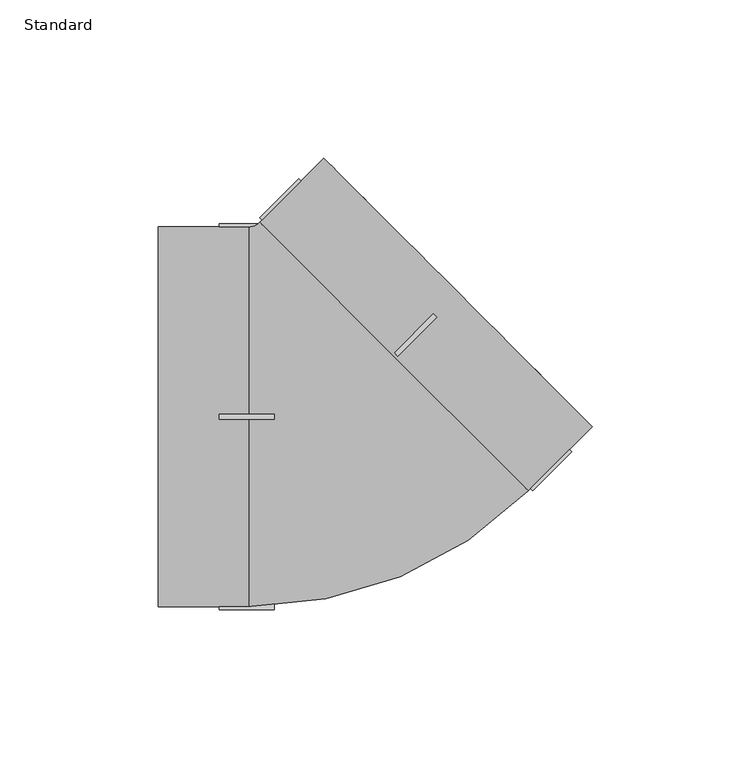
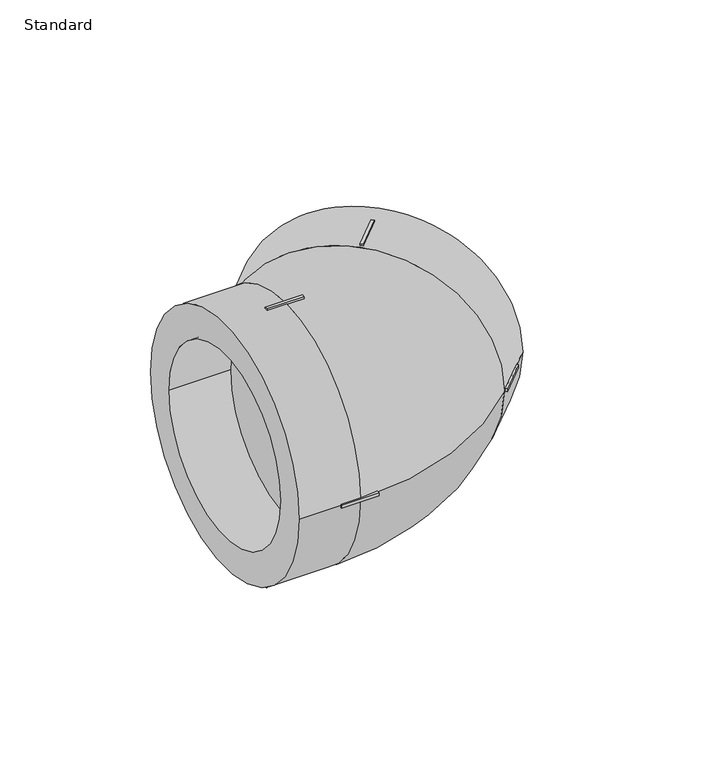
"""IFC4 building model written with IfcOpenShell, lengths in millimetres: pipe fitting geometry, EGB_VASEN_ PPR_Codo 90 WXR200_Codo 45 WXR220  : Standard."""

from ifc_helpers import new_model, si_unit, point, frame, origin, place, context, project, spatial, polyline, circle_curve, ellipse_curve, trimmed, outline, extrude, source, transform, mapped, element, save
from ifc_brep_helpers import plane_surface, cylinder_surface, revolved_surface, advanced_brep


def standard_c53607fb(model_context):
    return source(origin(), model_context, "Body", "SolidModel", [
        advanced_brep(
        [(-55.5, -60.0, 0.0), (-55.5, 60.0, 0.0), (-55.5, -45.0, 0.0), (-55.5, 45.0, 0.0), (-26.8528137, -60.0, 0.0), (-26.8528137, 60.0, 0.0), (-26.8528137, -45.0, 0.0), (-26.8528137, 45.0, 0.0), (50.8076118, -12.8319985, 0.0), (-12.8319985, 50.8076118, 0.0), (-23.4386002, 61.4142136, 0.0), (61.4142136, -23.4386002, 0.0), (18.9878067, 18.9878067, 60.0), (18.9878067, 18.9878067, -60.0), (81.6708332, -3.1819805, 0.0), (-3.1819805, 81.6708332, 0.0), (71.0642315, 7.4246212, 0.0), (7.4246212, 71.0642315, 0.0)],
        [
            (0, 1, circle_curve(frame((-55.5, 0.0, 0.0), z_axis=(-1.0, 0.0, 0.0), x_axis=(0.0, 1.0, 0.0)), 60.0)),
            (1, 0, circle_curve(frame((-55.5, 0.0, 0.0), z_axis=(-1.0, 0.0, 0.0), x_axis=(0.0, 1.0, 0.0)), 60.0)),
            (2, 3, circle_curve(frame((-55.5, 0.0, 0.0), z_axis=(1.0, 0.0, 0.0), x_axis=(0.0, 1.0, 0.0)), 45.0)),
            (3, 2, circle_curve(frame((-55.5, 0.0, 0.0), z_axis=(1.0, 0.0, 0.0), x_axis=(0.0, 1.0, 0.0)), 45.0)),
            (0, 4),
            (4, 5, circle_curve(frame((-26.8528137, 0.0, 0.0), z_axis=(-1.0, 0.0, 0.0), x_axis=(0.0, 1.0, 0.0)), 60.0)),
            (5, 1),
            (5, 4, circle_curve(frame((-26.8528137, 0.0, 0.0), z_axis=(-1.0, 0.0, 0.0), x_axis=(0.0, 1.0, 0.0)), 60.0)),
            (2, 6),
            (6, 7, circle_curve(frame((-26.8528137, 0.0, 0.0), z_axis=(1.0, 0.0, 0.0), x_axis=(0.0, 1.0, 0.0)), 45.0)),
            (7, 3),
            (7, 6, circle_curve(frame((-26.8528137, 0.0, 0.0), z_axis=(1.0, 0.0, 0.0), x_axis=(0.0, 1.0, 0.0)), 45.0)),
            (8, 9, circle_curve(frame((18.9878067, 18.9878067, 0.0), z_axis=(0.707106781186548, 0.7071067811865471, 0.0), x_axis=(-0.7071067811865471, 0.707106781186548, 0.0)), 45.0)),
            (9, 8, circle_curve(frame((18.9878067, 18.9878067, 0.0), z_axis=(0.707106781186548, 0.7071067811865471, 0.0), x_axis=(-0.7071067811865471, 0.707106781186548, 0.0)), 45.0)),
            (10, 5, circle_curve(frame((-26.8528137, 64.8284271, 0.0), z_axis=(0.0, 0.0, -1.0), x_axis=(0.0, -1.0, 0.0)), 4.8284271)),
            (4, 11, circle_curve(frame((-26.8528137, 64.8284271, 0.0), z_axis=(0.0, 0.0, 1.0), x_axis=(0.0, -1.0, 0.0)), 124.8284271)),
            (11, 12, circle_curve(frame((18.9878067, 18.9878067, 0.0), z_axis=(-0.7071067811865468, -0.7071067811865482, 0.0), x_axis=(-0.7071067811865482, 0.7071067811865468, 0.0)), 60.0)),
            (12, 10, circle_curve(frame((18.9878067, 18.9878067, 0.0), z_axis=(-0.7071067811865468, -0.7071067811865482, 0.0), x_axis=(-0.7071067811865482, 0.7071067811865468, 0.0)), 60.0)),
            (10, 13, circle_curve(frame((18.9878067, 18.9878067, 0.0), z_axis=(-0.7071067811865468, -0.7071067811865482, 0.0), x_axis=(-0.7071067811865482, 0.7071067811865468, 0.0)), 60.0)),
            (13, 11, circle_curve(frame((18.9878067, 18.9878067, 0.0), z_axis=(-0.7071067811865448, -0.7071067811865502, 0.0), x_axis=(-0.7071067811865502, 0.7071067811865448, 0.0)), 60.0)),
            (14, 15, circle_curve(frame((39.2444264, 39.2444264, 0.0), z_axis=(0.707106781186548, 0.7071067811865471, 0.0), x_axis=(-0.7071067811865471, 0.707106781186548, 0.0)), 60.0)),
            (15, 14, circle_curve(frame((39.2444264, 39.2444264, 0.0), z_axis=(0.707106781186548, 0.7071067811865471, 0.0), x_axis=(-0.7071067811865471, 0.707106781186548, 0.0)), 60.0)),
            (16, 17, circle_curve(frame((39.2444264, 39.2444264, 0.0), z_axis=(-0.707106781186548, -0.7071067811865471, 0.0), x_axis=(-0.7071067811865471, 0.707106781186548, 0.0)), 45.0)),
            (17, 16, circle_curve(frame((39.2444264, 39.2444264, 0.0), z_axis=(-0.707106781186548, -0.7071067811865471, 0.0), x_axis=(-0.7071067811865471, 0.707106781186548, 0.0)), 45.0)),
            (15, 10),
            (11, 14),
            (17, 9),
            (8, 16),
        ],
        [
            plane_surface(frame((-55.5, 0.0, 0.0), z_axis=(-1.0, 0.0, 0.0), x_axis=(0.0, 0.0, 1.0))),
            cylinder_surface(frame((-55.5, 0.0, 0.0), z_axis=(-1.0, 0.0, 0.0), x_axis=(0.0, 1.0, 0.0)), 60.0),
            revolved_surface(polyline([(-26.8528137, 45.0, 0.0), (-55.5, 45.0, 0.0)]), (-55.5, 0.0, 0.0), (1.0, 0.0, 0.0)),
            plane_surface(frame((-26.8528137, 0.0, 0.0), z_axis=(-1.0, 0.0, 0.0), x_axis=(0.0, 0.0, 1.0))),
            plane_surface(frame((18.9878067, 18.9878067, 0.0), z_axis=(0.7071067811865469, 0.7071067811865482, 0.0), x_axis=(0.0, 0.0, 1.0))),
            revolved_surface(trimmed(ellipse_curve(frame((-26.8528137, 0.0, 0.0), z_axis=(-1.0, 0.0, 0.0), x_axis=(0.0, 1.0, 0.0)), 60.0, 60.0), [point((-26.8528137, -60.0, 0.0))], [point((-26.8528137, 60.0, 0.0))], True, "CARTESIAN"), (-26.8528137, 64.8284271, 0.0), (0.0, 0.0, 1.0)),
            revolved_surface(trimmed(ellipse_curve(frame((-26.8528137, 0.0, 0.0), z_axis=(-1.0, 0.0, 0.0), x_axis=(0.0, 1.0, 0.0)), 60.0, 60.0), [point((-26.8528137, 60.0, 0.0))], [point((-26.8528137, -60.0, 0.0))], True, "CARTESIAN"), (-26.8528137, 64.8284271, 0.0), (0.0, 0.0, 1.0)),
            plane_surface(frame((39.2444264, 39.2444264, 0.0), z_axis=(0.707106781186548, 0.7071067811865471, 0.0), x_axis=(0.0, 0.0, 1.0))),
            cylinder_surface(frame((18.9878067, 18.9878067, 0.0), z_axis=(-0.707106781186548, -0.7071067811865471, 0.0), x_axis=(-0.7071067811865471, 0.707106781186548, 0.0)), 60.0),
            revolved_surface(polyline([(7.424621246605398, 71.06423155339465, 0.0), (-12.831998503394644, 50.80761180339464, 0.0)]), (18.9878067, 18.9878067, 0.0), (0.707106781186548, 0.7071067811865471, 0.0)),
        ],
        [
            (0, [[1, 2], [3, 4]]),
            (1, [[-1, 5, 6, 7]]),
            (1, [[-2, -7, 8, -5]]),
            (2, [[-3, 9, 10, 11]]),
            (2, [[-4, -11, 12, -9]]),
            (3, [[-10, -12]]),
            (4, [[13, 14]]),
            (5, [[15, -6, 16, 17, 18]]),
            (6, [[-15, 19, 20, -16, -8]]),
            (7, [[21, 22], [23, 24]]),
            (8, [[-22, 25, -18, -17, 26]]),
            (8, [[-21, -26, -20, -19, -25]]),
            (9, [[-24, 27, -13, 28]]),
            (9, [[-23, -28, -14, -27]]),
        ],
    ),
        extrude(outline(polyline([(20.2252436, 19.1645834), (19.1645834, 20.2252436), (31.4682414, 32.5289016), (32.5289016, 31.4682414), (20.2252436, 19.1645834)])), frame((0.0, 0.0, 59.0), z_axis=(0.0, 0.0, 1.0), x_axis=(1.0, 0.0, 0.0)), (0.0, 0.0, 1.0), 2.0),
        extrude(outline(polyline([(-22.0243866, 61.4142136), (-23.4386002, 62.8284271), (-11.1349422, 75.1320851), (-9.7207286, 73.7178716), (-22.0243866, 61.4142136)])), frame((0.0, 0.0, -0.75), z_axis=(0.0, 0.0, 1.0), x_axis=(1.0, 0.0, 0.0)), (0.0, 0.0, 1.0), 1.5),
        extrude(outline(polyline([(62.8284271, -23.4386002), (61.4142136, -22.0243866), (73.7178716, -9.7207286), (75.1320851, -11.1349422), (62.8284271, -23.4386002)])), frame((0.0, 0.0, -0.75), z_axis=(0.0, 0.0, 1.0), x_axis=(1.0, 0.0, 0.0)), (0.0, 0.0, 1.0), 1.5),
        extrude(outline(polyline([(20.2252436, 19.1645834), (19.1645834, 20.2252436), (31.4682414, 32.5289016), (32.5289016, 31.4682414), (20.2252436, 19.1645834)])), frame((0.0, 0.0, -61.0), z_axis=(0.0, 0.0, 1.0), x_axis=(1.0, 0.0, 0.0)), (0.0, 0.0, 1.0), 2.0),
        extrude(outline(polyline([(-18.8528137, 0.75), (-18.8528137, -0.75), (-36.2528137, -0.75), (-36.2528137, 0.75), (-18.8528137, 0.75)])), frame((0.0, 0.0, 59.0), z_axis=(0.0, 0.0, 1.0), x_axis=(1.0, 0.0, 0.0)), (0.0, 0.0, 1.0), 2.0),
        extrude(outline(polyline([(-18.8528137, 0.75), (-18.8528137, -0.75), (-36.2528137, -0.75), (-36.2528137, 0.75), (-18.8528137, 0.75)])), frame((0.0, 0.0, -61.0), z_axis=(0.0, 0.0, 1.0), x_axis=(1.0, 0.0, 0.0)), (0.0, 0.0, 1.0), 2.0),
        extrude(outline(polyline([(-18.8528137, 61.0), (-18.8528137, 59.0), (-36.2528137, 59.0), (-36.2528137, 61.0), (-18.8528137, 61.0)])), frame((0.0, 0.0, -0.75), z_axis=(0.0, 0.0, 1.0), x_axis=(1.0, 0.0, 0.0)), (0.0, 0.0, 1.0), 1.5),
        extrude(outline(polyline([(-18.8528137, -59.0), (-18.8528137, -61.0), (-36.2528137, -61.0), (-36.2528137, -59.0), (-18.8528137, -59.0)])), frame((0.0, 0.0, -0.75), z_axis=(0.0, 0.0, 1.0), x_axis=(1.0, 0.0, 0.0)), (0.0, 0.0, 1.0), 1.5),
    ])


if __name__ == "__main__":
    model = new_model("IFC4")
    model_context = context("Model", 3, world=origin())
    ifc_project = project(units=[si_unit("LENGTHUNIT", "METRE", prefix="MILLI")], contexts=[model_context])
    site = spatial("IfcSite", under=ifc_project)
    building = spatial("IfcBuilding", under=site)
    placement = place(None, origin())
    standard_shape = standard_c53607fb(model_context)
    element("IfcPipeFitting", 1, ObjectType="EGB_VASEN_ PPR_Codo 90 WXR200_Codo 45 WXR220  : Standard", at=placement, inside=building, context=model_context, shape_type="MappedRepresentation", body=[
        mapped(standard_shape, transform((0.0, 0.0, 0.0), x_axis=(1.0, 0.0, 0.0), y_axis=(0.0, 1.0, 0.0), z_axis=(0.0, 0.0, 1.0))),
    ])
    save(model, "model.ifc")
